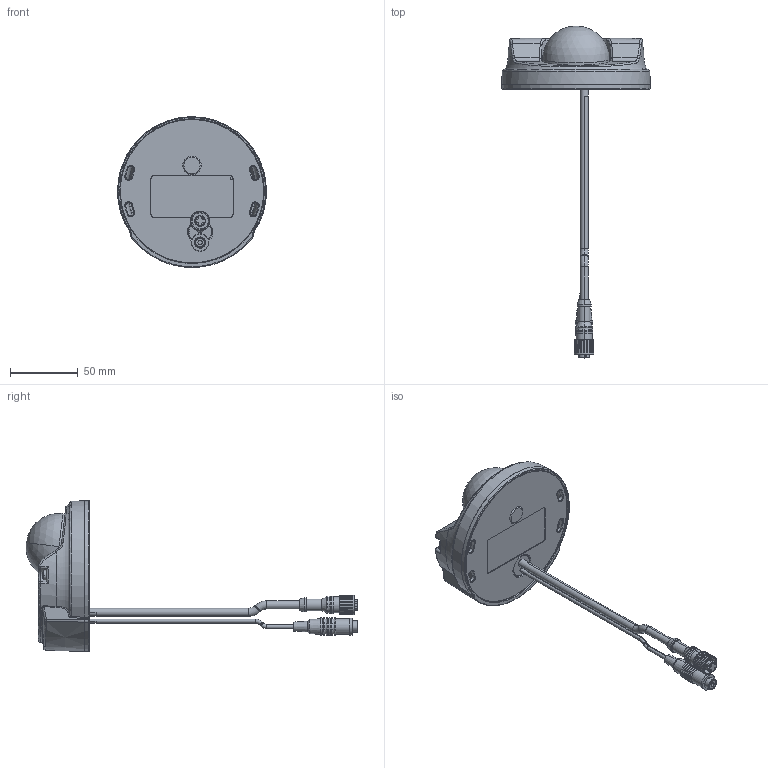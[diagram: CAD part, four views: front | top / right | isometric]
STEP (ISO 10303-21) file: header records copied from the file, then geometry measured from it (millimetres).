
FILE_DESCRIPTION((''),'2;1');
FILE_NAME('VPORT-06-ALL_ASM_ASM','2016-02-19T',('BensonYC_Lee'),('PTC'),'PRO/ENGINEER BY PARAMETRIC TECHNOLOGY CORPORATION, 2012360','PRO/ENGINEER BY PARAMETRIC TECHNOLOGY CORPORATION, 2012360','');
FILE_SCHEMA(('AUTOMOTIVE_DESIGN { 1 0 10303 214 1 1 1 1 }'));
Length unit declared in the file: inch
Products named in the file (1): VPORT-06-ALL_ASM_ASM
Bounding box: 110 x 245.17 x 111.31 mm (x, y, z)
Volume: 73769.1 mm3; surface area: 95632.9 mm2
Topology: 2 solids, 8 shells, 1115 faces, 3057 edges, 2027 vertices
Faces by surface type: plane 371, cylinder 285, cone 205, torus 142, bspline 75, sphere 24, revolution 7, extrusion 6
Entity records: 47019 total; most frequent: CARTESIAN_POINT 13584, ORIENTED_EDGE 6048, DIRECTION 5799, EDGE_CURVE 3037, AXIS2_PLACEMENT_3D 2408, VERTEX_POINT 2027, CIRCLE 1380, EDGE_LOOP 1231
